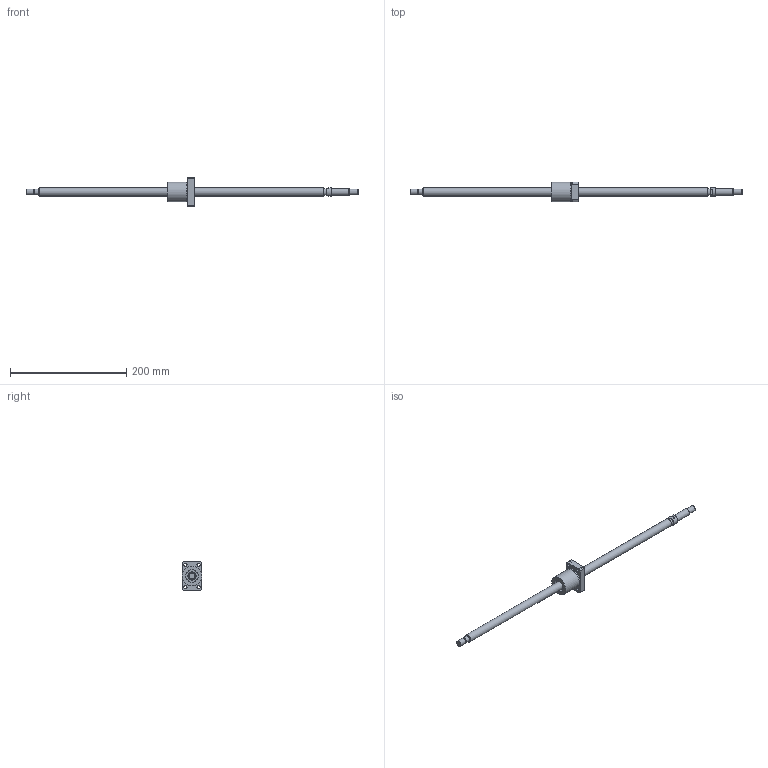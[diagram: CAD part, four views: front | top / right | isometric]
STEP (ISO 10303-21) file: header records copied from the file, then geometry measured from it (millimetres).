
FILE_DESCRIPTION(/* description */ ('STEP AP203'),/* implementation_level */ '2;1');
FILE_NAME(/* name */ 'BNK1408-2.5RRG0+571LC5Y(267.50)',/* time_stamp */ '2024-07-09T09:17:37+02:00',/* author */ ('License CC BY-ND 4.0'),/* organization */ ('CADENAS'),/* preprocessor_version */ 'ST-DEVELOPER v19.3',/* originating_system */ 'PARTsolutions',/* authorisation */ ' ');
FILE_SCHEMA (('CONFIG_CONTROL_DESIGN','AP242_MANAGED_MODEL_BASED_3D_ENGINEERING_MIM_LF { 1 0 10303 442 3 1 4 }'));
Length unit declared in the file: millimetre
Products named in the file (3): BNK1408-2.5RRG0+571LC5Y(267.50); BNK 1408-2.5RRG0+571LC5Y Shaft; BNK 1408-2.5RRG0+571LC5YRR0 Nut
Assembly tree (2 placements, depth 2):
  BNK1408-2.5RRG0+571LC5Y(267.50)
    BNK 1408-2.5RRG0+571LC5Y Shaft
    BNK 1408-2.5RRG0+571LC5YRR0 Nut
Bounding box: 571 x 34 x 50 mm (x, y, z)
Volume: 122488.3 mm3; surface area: 36760.2 mm2
Topology: 2 solids, 2 shells, 74 faces, 159 edges, 102 vertices
Faces by surface type: plane 28, cylinder 27, cone 17, torus 2
Full cylindrical faces by diameter (mm): 4.917 x2, 5.5 x4, 9.5 x4, 9.6 x1, 10 x3, 12 x2, 14 x2, 15 x1, 21 x2, 33.4 x1, 34 x1
Entity records: 1940 total; most frequent: CARTESIAN_POINT 349, DIRECTION 336, ORIENTED_EDGE 242, AXIS2_PLACEMENT_3D 155, FACE_BOUND 134, EDGE_LOOP 133, EDGE_CURVE 121, VERTEX_POINT 99
